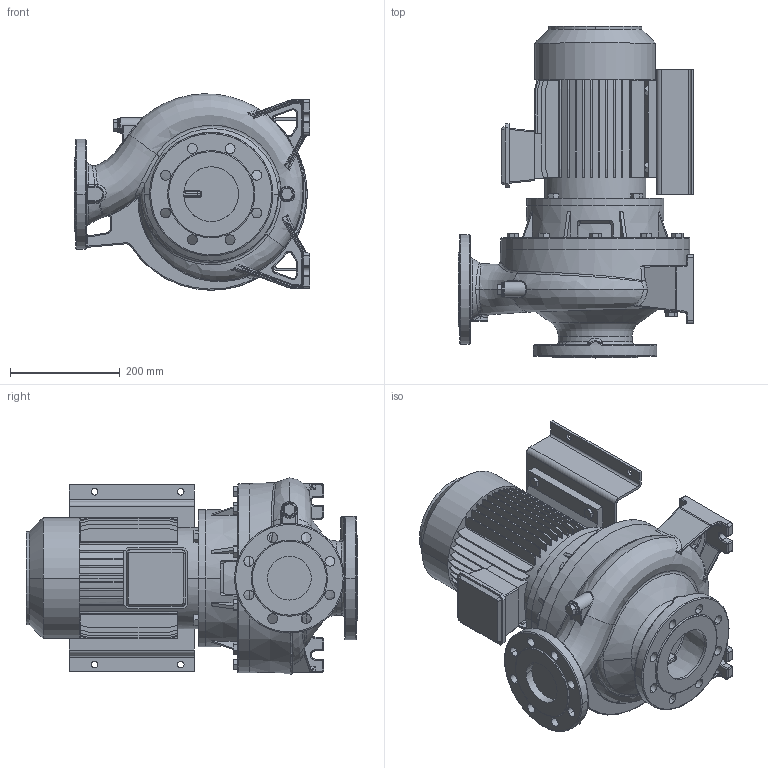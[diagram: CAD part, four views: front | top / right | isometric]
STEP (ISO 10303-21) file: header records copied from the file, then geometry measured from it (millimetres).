
FILE_DESCRIPTION((''),'2;1');
FILE_NAME('3S4_80-200_4_IE3_ASM','2016-09-24T',('rosa'),('"Ebara Pumps Europe +39.444.706811"'),'PRO/ENGINEER BY PARAMETRIC TECHNOLOGY CORPORATION, 2012130','PRO/ENGINEER BY PARAMETRIC TECHNOLOGY CORPORATION, 2012130','');
FILE_SCHEMA(('AUTOMOTIVE_DESIGN { 1 0 10303 214 1 1 1 1 }'));
Products named in the file (6): MOTORE_112_4_KW_4POLI_B35; SOSTEGNO_72191_112M; M10X22; SUPPORTO_3S_266_100_112; CORPO_POMPA_80-200; 3S4_80-200_4_IE3_ASM
Assembly tree (8 placements, depth 2):
  3S4_80-200_4_IE3_ASM
    MOTORE_112_4_KW_4POLI_B35
    SOSTEGNO_72191_112M
    M10X22  x4
    SUPPORTO_3S_266_100_112
    CORPO_POMPA_80-200
Bounding box: 430 x 605 x 358.06 mm (x, y, z)
Volume: 27523054.7 mm3; surface area: 1771470.8 mm2
Topology: 8 solids, 8 shells, 1301 faces, 3190 edges, 1979 vertices
Faces by surface type: plane 615, cylinder 289, bspline 216, torus 102, cone 58, sphere 21
Entity records: 59458 total; most frequent: CARTESIAN_POINT 20931, ORIENTED_EDGE 6102, DIRECTION 5450, PRESENTATION_STYLE_ASSIGNMENT 3056, STYLED_ITEM 3056, CURVE_STYLE 3051, EDGE_CURVE 3051, AXIS2_PLACEMENT_3D 1944
